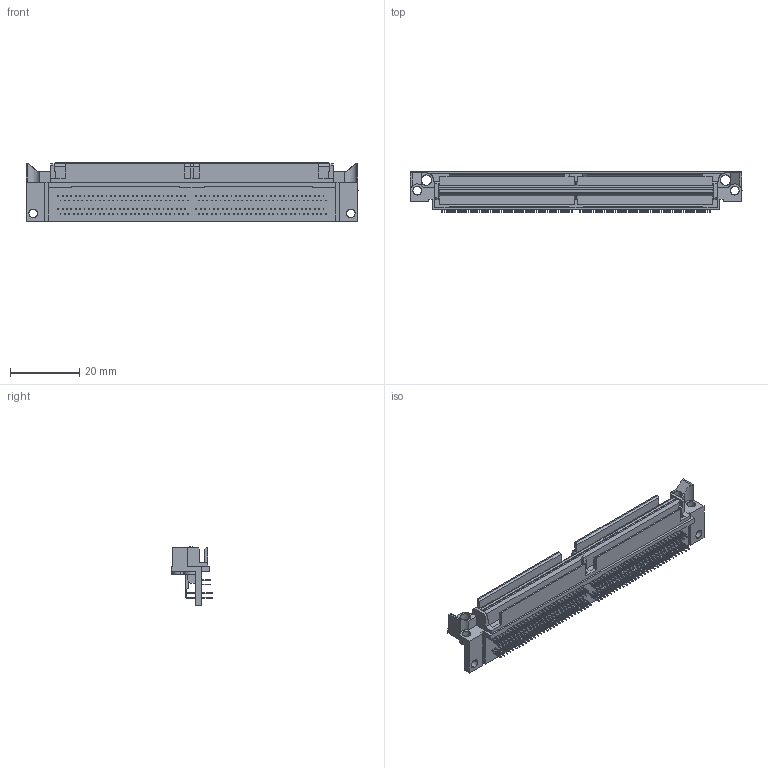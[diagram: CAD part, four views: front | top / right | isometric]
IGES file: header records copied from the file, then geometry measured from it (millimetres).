
Start section: SolidWorks IGES file using analytic representation for surfaces
Bounding box: 96.15 x 11.86 x 16.9 mm (x, y, z)
Surface area: 9223.5 mm2 (no closed solid volume)
Topology: 0 solids, 0 shells, 2244 faces, 14698 edges, 14698 vertices
Faces by surface type: bspline 1976, revolution 268
